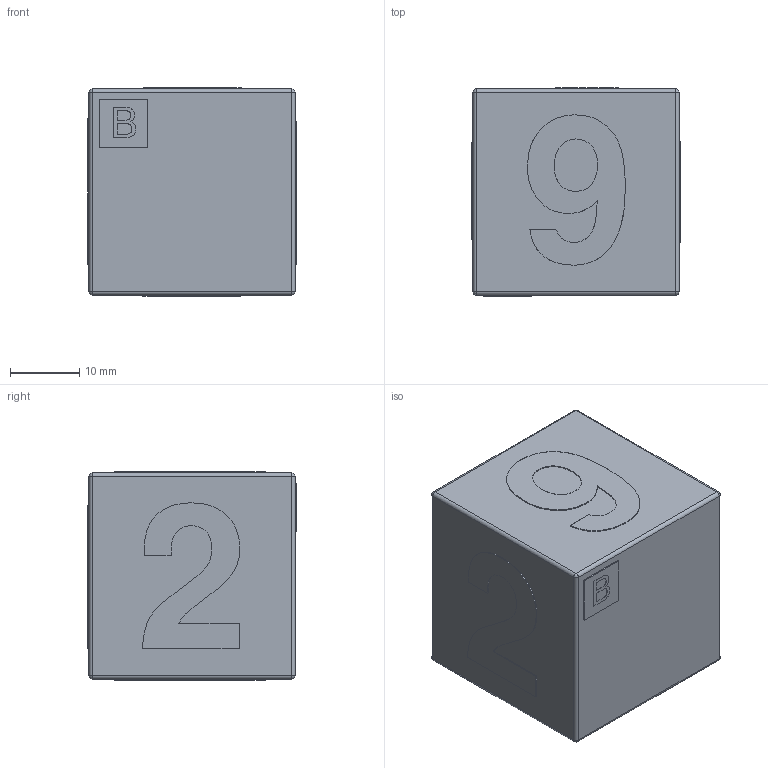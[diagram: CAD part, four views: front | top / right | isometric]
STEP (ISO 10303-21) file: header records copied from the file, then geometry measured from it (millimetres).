
FILE_DESCRIPTION(('Open CASCADE Model'),'2;1');
FILE_NAME('Open CASCADE Shape Model','2025-09-14T20:47:12',('Author'),( 'Open CASCADE'),'Open CASCADE STEP processor 7.8','Open CASCADE 7.8' ,'Unknown');
FILE_SCHEMA(('AUTOMOTIVE_DESIGN { 1 0 10303 214 1 1 1 1 }'));
Length unit declared in the file: millimetre
Products named in the file (18): 9b585c42-91a3-11f0-88d2-1c1b0deae66b; 9b585e04-91a3-11f0-88d2-1c1b0deae66b; 9b585e04-91a3-11f0-88d2-1c1b0deae66b_part; 9b5aab00-91a3-11f0-88d2-1c1b0deae66b; 9b5aab00-91a3-11f0-88d2-1c1b0deae66b_part; 9b5bd80e-91a3-11f0-88d2-1c1b0deae66b; 9b5bd80e-91a3-11f0-88d2-1c1b0deae66b_part; 9b5d626e-91a3-11f0-88d2-1c1b0deae66b; 9b5d626e-91a3-11f0-88d2-1c1b0deae66b_part; 9b5f4476-91a3-11f0-88d2-1c1b0deae66b; 9b5f4476-91a3-11f0-88d2-1c1b0deae66b_part; 9b611f3a-91a3-11f0-88d2-1c1b0deae66b; 9b611f3a-91a3-11f0-88d2-1c1b0deae66b_part; 9b6ccf42-91a3-11f0-88d2-1c1b0deae66b; 9b6ccf42-91a3-11f0-88d2-1c1b0deae66b_part; 9b6cd0be-91a3-11f0-88d2-1c1b0deae66b; 9b6cd0be-91a3-11f0-88d2-1c1b0deae66b_part
Assembly tree (17 placements, depth 4):
  9b585c42-91a3-11f0-88d2-1c1b0deae66b
    9b585c42-91a3-11f0-88d2-1c1b0deae66b
      9b585e04-91a3-11f0-88d2-1c1b0deae66b
        9b585e04-91a3-11f0-88d2-1c1b0deae66b_part
      9b5aab00-91a3-11f0-88d2-1c1b0deae66b
        9b5aab00-91a3-11f0-88d2-1c1b0deae66b_part
      9b5bd80e-91a3-11f0-88d2-1c1b0deae66b
        9b5bd80e-91a3-11f0-88d2-1c1b0deae66b_part
      9b5d626e-91a3-11f0-88d2-1c1b0deae66b
        9b5d626e-91a3-11f0-88d2-1c1b0deae66b_part
      9b5f4476-91a3-11f0-88d2-1c1b0deae66b
        9b5f4476-91a3-11f0-88d2-1c1b0deae66b_part
      9b611f3a-91a3-11f0-88d2-1c1b0deae66b
        9b611f3a-91a3-11f0-88d2-1c1b0deae66b_part
      9b6ccf42-91a3-11f0-88d2-1c1b0deae66b
        9b6ccf42-91a3-11f0-88d2-1c1b0deae66b_part
      9b6cd0be-91a3-11f0-88d2-1c1b0deae66b
        9b6cd0be-91a3-11f0-88d2-1c1b0deae66b_part
Bounding box: 30 x 30 x 30 mm (x, y, z)
Volume: 26298.1 mm3; surface area: 6878.7 mm2
Topology: 10 solids, 10 shells, 208 faces, 548 edges, 352 vertices
Faces by surface type: extrusion 114, plane 74, cylinder 12, sphere 8
Entity records: 13831 total; most frequent: CARTESIAN_POINT 3370, DIRECTION 1494, VECTOR 1222, LINE 1108, ORIENTED_EDGE 1080, PCURVE 1080, DEFINITIONAL_REPRESENTATION 1080, B_SPLINE_CURVE_WITH_KNOTS 602
